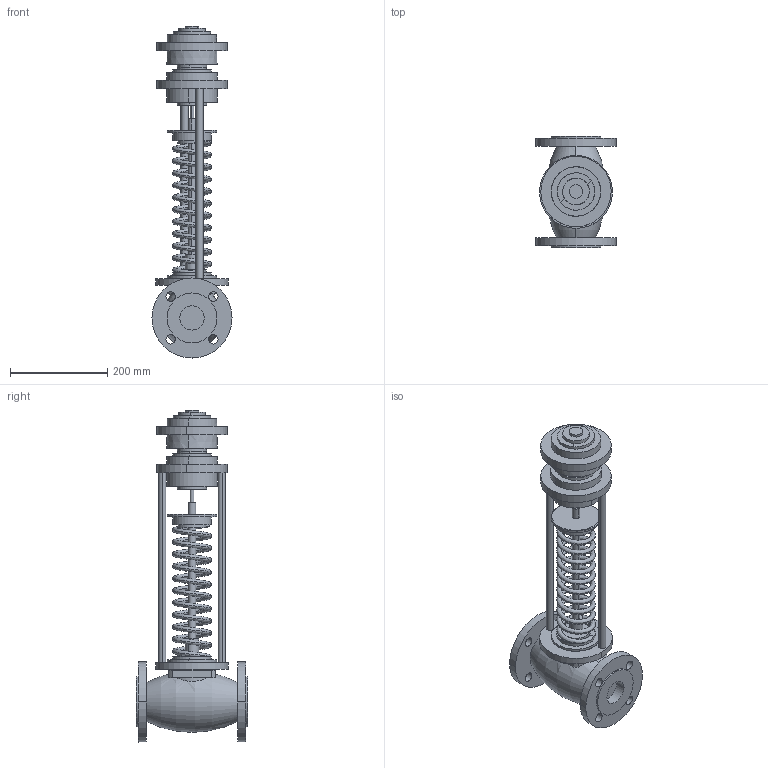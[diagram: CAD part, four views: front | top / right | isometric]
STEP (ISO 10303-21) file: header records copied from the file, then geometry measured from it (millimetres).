
FILE_DESCRIPTION (( 'STEP AP214' ), '1' );
FILE_NAME ('RDT-H-RDT-PH DN50 (0.1).stp', '2025-12-12T11:39:14', ( '' ), ( '' ), 'SwSTEP 2.0', 'SolidWorks 2023', '' );
FILE_SCHEMA (( 'AUTOMOTIVE_DESIGN' ));
Length unit declared in the file: millimetre
Products named in the file (1): RDT-H-RDT-PH DN50 (0.1)
Bounding box: 165 x 230 x 684 mm (x, y, z)
Volume: 4897832.5 mm3; surface area: 501993.6 mm2
Topology: 1 solids, 2 shells, 171 faces, 388 edges, 250 vertices
Faces by surface type: cylinder 95, plane 45, cone 25, torus 4, bspline 2
Entity records: 9328 total; most frequent: CARTESIAN_POINT 5234, DIRECTION 937, ORIENTED_EDGE 772, AXIS2_PLACEMENT_3D 402, EDGE_CURVE 386, VERTEX_POINT 249, CIRCLE 232, EDGE_LOOP 231
